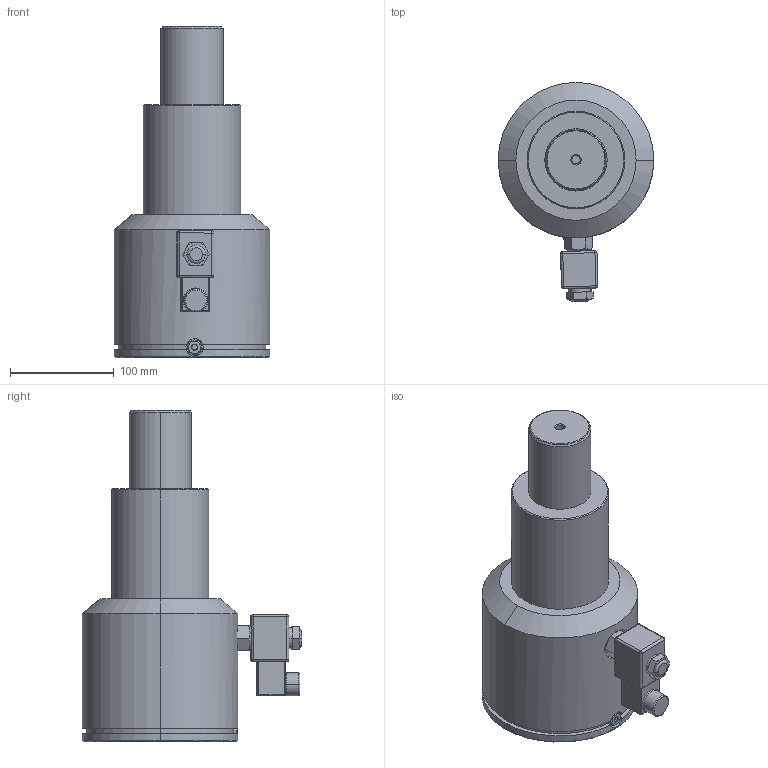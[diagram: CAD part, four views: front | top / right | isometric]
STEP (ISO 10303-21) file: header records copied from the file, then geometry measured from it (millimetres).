
FILE_DESCRIPTION(('CATIA V5 STEP Exchange'),'2;1');
FILE_NAME('W:\CATALOGO GENERAL 2015\CATIA\CILINDRO PARADA MONOCUERPO\TPMCM4500x75.stp','2023-09-26T04:55:43+00:00',('none'),('none'),'CATIA Version 5 Release 17 (IN-10)','CATIA V5 STEP AP203','none');
FILE_SCHEMA(('CONFIG_CONTROL_DESIGN'));
Length unit declared in the file: millimetre
Products named in the file (1): Stop-cylinder monolitic
Assembly tree (5 placements, depth 2):
  Stop-cylinder monolitic
    #56
    #1744
    #1896
    #2210
    #5752
Bounding box: 150 x 211.32 x 320 mm (x, y, z)
Volume: 3403243.4 mm3; surface area: 188813.7 mm2
Topology: 9 solids, 9 shells, 274 faces, 608 edges, 339 vertices
Faces by surface type: cone 74, cylinder 68, plane 67, torus 33, revolution 18, sphere 12, bspline 2
Entity records: 7489 total; most frequent: CARTESIAN_POINT 1984, ORIENTED_EDGE 1156, DIRECTION 915, EDGE_CURVE 578, AXIS2_PLACEMENT_3D 472, VERTEX_POINT 339, EDGE_LOOP 291, ADVANCED_FACE 274
